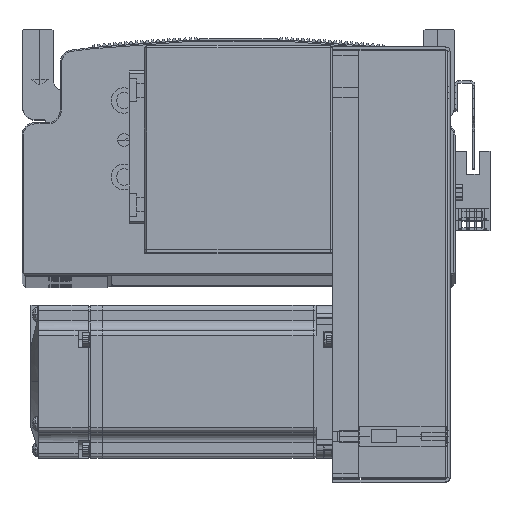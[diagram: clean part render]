
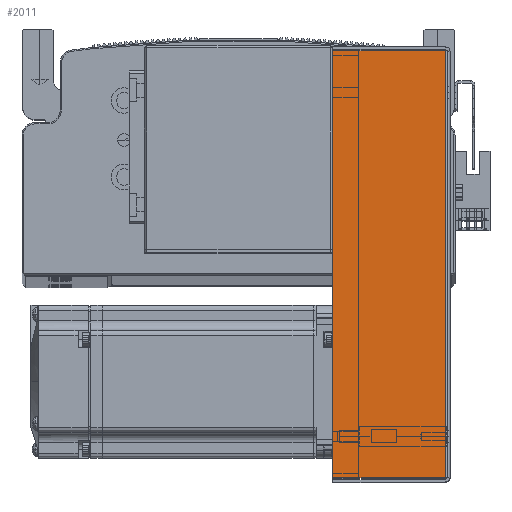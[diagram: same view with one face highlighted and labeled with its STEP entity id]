
A CAD part, top view. The second image highlights one B-rep face of the part: STEP entity #2011.
In plain terms, the highlighted planar face has unit normal (0, 0, 1) as drawn and (0, 0, -1) by its records, which use the part's own axes.
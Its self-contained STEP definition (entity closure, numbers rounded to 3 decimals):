
#2011 = ADVANCED_FACE ( 'NONE', ( #27547 ), #86781, .F. ) ;
#9357 = CARTESIAN_POINT ( 'NONE',  ( -83.793, 0.737, -40.5 ) ) ;
#9434 = CARTESIAN_POINT ( 'NONE',  ( -83.793, 45., -40.5 ) ) ;
#9507 = CARTESIAN_POINT ( 'NONE',  ( 83.793, 0.737, -40.5 ) ) ;
#26637 = AXIS2_PLACEMENT_3D ( 'NONE', #86804, #86821, #86789 ) ;
#27547 = FACE_OUTER_BOUND ( 'NONE', #87266, .T. ) ;
#29284 = LINE ( 'NONE', #43968, #29334 ) ;
#29334 = VECTOR ( 'NONE', #43958, 1000. ) ;
#29361 = LINE ( 'NONE', #44013, #29363 ) ;
#29363 = VECTOR ( 'NONE', #44027, 1000. ) ;
#29397 = VECTOR ( 'NONE', #44050, 1000. ) ;
#29399 = LINE ( 'NONE', #43987, #29397 ) ;
#29422 = LINE ( 'NONE', #44106, #29444 ) ;
#29444 = VECTOR ( 'NONE', #44113, 1000. ) ;
#40951 = VERTEX_POINT ( 'NONE', #41323 ) ;
#41323 = CARTESIAN_POINT ( 'NONE',  ( 83.793, 45., -40.5 ) ) ;
#43958 = DIRECTION ( 'NONE',  ( 1., 0., 0. ) ) ;
#43968 = CARTESIAN_POINT ( 'NONE',  ( 84.5, 45., -40.5 ) ) ;
#43987 = CARTESIAN_POINT ( 'NONE',  ( 83.793, 0., -40.5 ) ) ;
#44013 = CARTESIAN_POINT ( 'NONE',  ( 0., 0.737, -40.5 ) ) ;
#44027 = DIRECTION ( 'NONE',  ( 1., 0., 0. ) ) ;
#44050 = DIRECTION ( 'NONE',  ( 0., 1., 0. ) ) ;
#44106 = CARTESIAN_POINT ( 'NONE',  ( -83.793, 0., -40.5 ) ) ;
#44113 = DIRECTION ( 'NONE',  ( 0., 1., 0. ) ) ;
#51731 = ORIENTED_EDGE ( 'NONE', *, *, #58227, .F. ) ;
#51757 = ORIENTED_EDGE ( 'NONE', *, *, #58293, .T. ) ;
#51784 = ORIENTED_EDGE ( 'NONE', *, *, #58174, .T. ) ;
#51809 = ORIENTED_EDGE ( 'NONE', *, *, #58221, .F. ) ;
#58174 = EDGE_CURVE ( 'NONE', #90578, #40951, #29284, .T. ) ;
#58221 = EDGE_CURVE ( 'NONE', #90544, #90640, #29361, .T. ) ;
#58227 = EDGE_CURVE ( 'NONE', #90640, #40951, #29399, .T. ) ;
#58293 = EDGE_CURVE ( 'NONE', #90544, #90578, #29422, .T. ) ;
#86781 = PLANE ( 'NONE',  #26637 ) ;
#86789 = DIRECTION ( 'NONE',  ( 0., -1., 0. ) ) ;
#86804 = CARTESIAN_POINT ( 'NONE',  ( 0., 0., -40.5 ) ) ;
#86821 = DIRECTION ( 'NONE',  ( 0., 0., 1. ) ) ;
#87266 = EDGE_LOOP ( 'NONE', ( #51809, #51757, #51784, #51731 ) ) ;
#90544 = VERTEX_POINT ( 'NONE', #9357 ) ;
#90578 = VERTEX_POINT ( 'NONE', #9434 ) ;
#90640 = VERTEX_POINT ( 'NONE', #9507 ) ;
